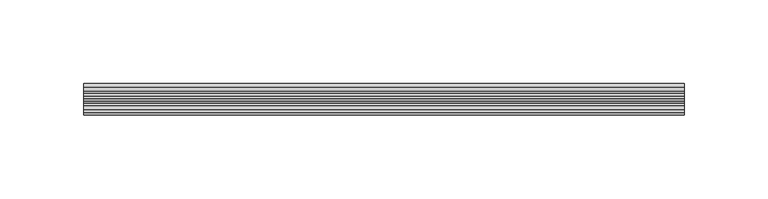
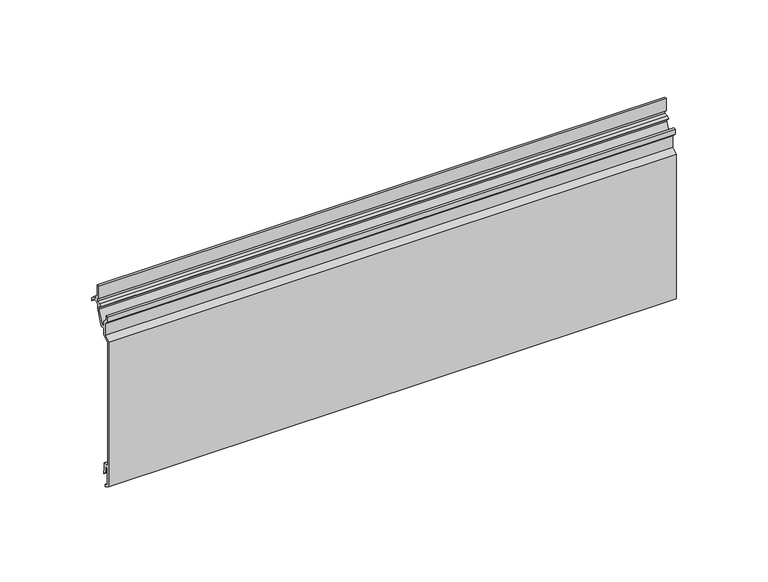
"""IFC4 building model written with IfcOpenShell, lengths in millimetres: plate geometry, FastPlank_P44V-V-Notch-4″-Plank-Horizontal : P44V-V-Notch-4″-Plank-Horizontal."""

import ifcopenshell
import ifcopenshell.guid

model = None  # the IFC model being written
_history = None  # IfcOwnerHistory: only IFC2X3 demands one
_inside = {}  # id of a spatial element -> (the spatial element, [elements in it])
_under = {}  # id of a project, library or spatial element -> (it, [spatial elements below it])
_declared = {}  # id of a project -> (the project, [libraries it declares])
_typed = {}  # id of a type object -> (the type object, [elements of that type])
_made_of = {}  # id of a material, layer set ... -> (it, [elements and type objects made of it])


def new_model(schema):
    """Start an empty IFC model of exactly this schema.

    Asked for "IFC4X3", IfcOpenShell would pick the latest addendum, in which some entities
    have other attributes; the version numbers below select the first issue.
    IFC2X3 requires an IfcOwnerHistory on every rooted entity: one is made here for all.
    """
    global model, _history
    if schema == "IFC4X3":
        model = ifcopenshell.file(schema_version=(4, 3, 0, 0))
    else:
        model = ifcopenshell.file(schema=schema)
    _inside.clear()
    _under.clear()
    _declared.clear()
    _typed.clear()
    _made_of.clear()
    _history = None
    if model.schema == "IFC2X3":
        org = make("IfcOrganization", Name="unknown")
        user = make(
            "IfcPersonAndOrganization",
            ThePerson=make("IfcPerson", FamilyName="unknown"),
            TheOrganization=org,
        )
        app = make(
            "IfcApplication",
            ApplicationDeveloper=org,
            Version="unknown",
            ApplicationFullName="unknown",
            ApplicationIdentifier="unknown",
        )
        _history = make(
            "IfcOwnerHistory",
            OwningUser=user,
            OwningApplication=app,
            ChangeAction="ADDED",
            CreationDate=0,
        )
    return model


def make(cls, **values):
    """One entity of the class cls with the attributes given. An attribute that is None is left unset."""
    return model.create_entity(
        cls, **{name: value for name, value in values.items() if value is not None}
    )


def rooted(cls, **values):
    """An entity with a GlobalId (a new one), such as an element, a storey or a relation."""
    return make(cls, GlobalId=ifcopenshell.guid.new(), OwnerHistory=_history, **values)


def si_unit(unit_type, name, prefix=None):
    """IfcSIUnit, for example si_unit("LENGTHUNIT", "METRE", prefix="MILLI")."""
    return make("IfcSIUnit", UnitType=unit_type, Prefix=prefix, Name=name)


def assignment(units):
    """IfcUnitAssignment: the units of a project."""
    return None if units is None else make("IfcUnitAssignment", Units=units)


def point(xyz):
    """IfcCartesianPoint."""
    return None if xyz is None else make("IfcCartesianPoint", Coordinates=xyz)


def direction(xyz):
    """IfcDirection."""
    return None if xyz is None else make("IfcDirection", DirectionRatios=xyz)


def frame(location, z_axis=None, x_axis=None):
    """IfcAxis2Placement3D, a coordinate frame: its origin and axes. An axis left out is left unset."""
    return make(
        "IfcAxis2Placement3D",
        Location=point(location),
        Axis=direction(z_axis),
        RefDirection=direction(x_axis),
    )


def origin():
    """The frame at (0, 0, 0) with its axes left unset."""
    return frame((0.0, 0.0, 0.0))


def place(relative_to, where):
    """IfcLocalPlacement: puts the frame where relative to a parent placement (None: the world)."""
    return make(
        "IfcLocalPlacement", PlacementRelTo=relative_to, RelativePlacement=where
    )


def context(
    kind, dimensions, precision=None, world=None, true_north=None, identifier=None
):
    """IfcGeometricRepresentationContext, for example the 3D "Model" context."""
    return make(
        "IfcGeometricRepresentationContext",
        ContextIdentifier=identifier,
        ContextType=kind,
        CoordinateSpaceDimension=dimensions,
        Precision=precision,
        WorldCoordinateSystem=world,
        TrueNorth=true_north,
    )


def project(units=None, contexts=None):
    """IfcProject with its units and contexts."""
    return rooted(
        "IfcProject",
        Name="project",
        RepresentationContexts=contexts,
        UnitsInContext=assignment(units),
    )


def spatial(cls, under=None, at=None, **own):
    """A site, building, storey or space (cls), placed at a placement, below another one or the project."""
    s = rooted(cls, ObjectPlacement=at, **own)
    if under is not None:
        _under.setdefault(under.id(), (under, []))[1].append(s)
    return s


def polyline(points):
    """IfcPolyline through the points."""
    return make("IfcPolyline", Points=[point(p) for p in points])


def outline(outer, holes=None, kind="AREA"):
    """IfcArbitraryClosedProfileDef: a profile drawn as a closed curve; with holes, ...WithVoids."""
    if holes is None:
        return make("IfcArbitraryClosedProfileDef", ProfileType=kind, OuterCurve=outer)
    return make(
        "IfcArbitraryProfileDefWithVoids",
        ProfileType=kind,
        OuterCurve=outer,
        InnerCurves=holes,
    )


def extrude(swept, where, along, depth):
    """IfcExtrudedAreaSolid: the profile swept, set in the frame where, extruded along a direction by depth."""
    return make(
        "IfcExtrudedAreaSolid",
        SweptArea=swept,
        Position=where,
        ExtrudedDirection=direction(along),
        Depth=depth,
    )


def shape(context_of_items, identifier, shape_type, items):
    """IfcShapeRepresentation: the items that make up one representation, for example the "Body"."""
    return make(
        "IfcShapeRepresentation",
        ContextOfItems=context_of_items,
        RepresentationIdentifier=identifier,
        RepresentationType=shape_type,
        Items=items,
    )


def source(mapping_origin, context_of_items, identifier, shape_type, items):
    """IfcRepresentationMap: a shape defined once, which mapped items show again and again."""
    return make(
        "IfcRepresentationMap",
        MappingOrigin=mapping_origin,
        MappedRepresentation=shape(context_of_items, identifier, shape_type, items),
    )


def transform(
    local_origin,
    x_axis=None,
    y_axis=None,
    z_axis=None,
    scale=None,
    scale2=None,
    scale3=None,
    uniform=True,
):
    """IfcCartesianTransformationOperator3D, or its non-uniform kind. x_axis, y_axis, z_axis: its Axis1, 2, 3."""
    if uniform:
        return make(
            "IfcCartesianTransformationOperator3D",
            Axis1=direction(x_axis),
            Axis2=direction(y_axis),
            LocalOrigin=point(local_origin),
            Scale=scale,
            Axis3=direction(z_axis),
        )
    return make(
        "IfcCartesianTransformationOperator3DnonUniform",
        Axis1=direction(x_axis),
        Axis2=direction(y_axis),
        LocalOrigin=point(local_origin),
        Scale=scale,
        Axis3=direction(z_axis),
        Scale2=scale2,
        Scale3=scale3,
    )


def mapped(mapping_source, mapping_target):
    """IfcMappedItem: shows the shape of a source again, moved by a transform."""
    return make(
        "IfcMappedItem", MappingSource=mapping_source, MappingTarget=mapping_target
    )


def made_of(thing, what):
    """Note that an element or type object is made of a material, layer set ...; save() writes the relation."""
    if what is not None:
        _made_of.setdefault(what.id(), (what, []))[1].append(thing)
    return thing


def element(
    cls,
    number,
    at=None,
    inside=None,
    cuts=None,
    type_object=None,
    material=None,
    context=None,
    identifier="Body",
    shape_type=None,
    held_by="IfcProductDefinitionShape",
    body=None,
    shapes=None,
    **own,
):
    """One element of the class cls, such as IfcWall. Its Tag is "e" and its number.

    at: its placement. inside: the storey or other place that contains it. cuts: it is an
    opening in that element (IfcRelVoidsElement). A single representation is given by context,
    identifier, shape_type and body (its items); several are given by shapes. held_by: the class
    of the entity that holds the representations. save() writes the other relations.
    """
    e = rooted(cls, Tag="e%d" % number, ObjectPlacement=at, **own)
    if body is not None:
        shapes = [shape(context, identifier, shape_type, body)]
    if shapes is not None:
        e.Representation = make(held_by, Representations=shapes)
    if inside is not None:
        _inside.setdefault(inside.id(), (inside, []))[1].append(e)
    if cuts is not None:
        rooted(
            "IfcRelVoidsElement", RelatingBuildingElement=cuts, RelatedOpeningElement=e
        )
    if type_object is not None:
        _typed.setdefault(type_object.id(), (type_object, []))[1].append(e)
    return made_of(e, material)


def aggregate(whole, parts):
    """IfcRelAggregates: a whole, such as a stair, and the parts it consists of."""
    return rooted("IfcRelAggregates", RelatingObject=whole, RelatedObjects=parts)


def save(model, path):
    """Write the relations noted so far, then the file.

    IfcRelAggregates (storeys below a building ...), IfcRelContainedInSpatialStructure (elements
    in a storey), IfcRelDefinesByType, IfcRelAssociatesMaterial and IfcRelDeclares: one each for
    every whole, place, type object, material and project.
    """
    for whole, parts in _under.values():
        aggregate(whole, parts)
    for where, things in _inside.values():
        rooted(
            "IfcRelContainedInSpatialStructure",
            RelatedElements=things,
            RelatingStructure=where,
        )
    for kind, things in _typed.values():
        rooted("IfcRelDefinesByType", RelatedObjects=things, RelatingType=kind)
    for what, things in _made_of.values():
        rooted("IfcRelAssociatesMaterial", RelatedObjects=things, RelatingMaterial=what)
    for by, libraries in _declared.values():
        rooted("IfcRelDeclares", RelatingContext=by, RelatedDefinitions=libraries)
    model.write(path)


def plate_c607dbfb(model_context):
    return source(origin(), model_context, "Body", "SweptSolid", [
        extrude(outline(polyline([(-18.8745946, 2.3957023), (-18.8745946, 98.7040846), (-14.7246029, 101.1000834), (-14.7246029, 108.6147973), (-17.3745976, 111.264792), (-17.3745976, 114.5726601), (-15.8746006, 114.5726601), (-15.8746006, 111.8861111), (-13.2246059, 109.2361164), (-13.2246059, 106.0486482), (-11.708109, 106.0486482), (-8.0338609, 114.2522203), (-8.0338609, 116.4558186), (-9.7191932, 116.4558186), (-10.3184198, 117.2227937), (-8.8232117, 118.3909783), (-6.2821578, 118.3909783), (-6.2821578, 120.8578751), (-7.5321553, 120.8578751), (-7.5321553, 129.1909904), (-6.0321583, 129.1909904), (-6.0321583, 122.3427309), (-4.7821608, 121.2437723), (-4.7821608, 118.9150861), (-2.1334241, 118.9150861), (0.0, 117.0394467), (0.0, 114.9213563), (-2.6937325, 117.6150887), (-5.0811989, 117.6150887), (-6.5338639, 116.7763922), (-6.5338639, 113.9609184), (-10.7243127, 104.5739676), (-13.2246059, 104.5739676), (-13.2246059, 100.4649994), (-17.5745972, 97.9535307), (-17.5745972, 15.4863039), (-14.0246043, 15.4863039), (-14.0246043, 10.5877112), (-13.3162936, 9.8794005), (-13.3162936, 7.7608499), (-15.5246013, 9.9691576), (-15.5246013, 13.9827581), (-17.3745976, 13.9827581), (-17.3745976, 3.2617795), (-14.7246029, 1.7319938), (-14.7246029, 0.0), (-18.8745946, 2.3957023)])), frame((-179.0386195, 0.0, 0.0), z_axis=(1.0, 0.0, 0.0), x_axis=(0.0, 1.0, 0.0)), (0.0, 0.0, 1.0), 358.077239),
    ])


if __name__ == "__main__":
    model = new_model("IFC4")
    model_context = context("Model", 3, world=origin())
    ifc_project = project(units=[si_unit("LENGTHUNIT", "METRE", prefix="MILLI")], contexts=[model_context])
    site = spatial("IfcSite", under=ifc_project)
    building = spatial("IfcBuilding", under=site)
    placement = place(None, origin())
    plate_shape = plate_c607dbfb(model_context)
    element("IfcPlate", 1, ObjectType="FastPlank_P44V-V-Notch-4″-Plank-Horizontal : P44V-V-Notch-4″-Plank-Horizontal", at=placement, inside=building, context=model_context, shape_type="MappedRepresentation", body=[
        mapped(plate_shape, transform((0.0, 0.0, 0.0), x_axis=(1.0, 0.0, 0.0), y_axis=(0.0, 1.0, 0.0), z_axis=(0.0, 0.0, 1.0))),
    ])
    save(model, "model.ifc")
